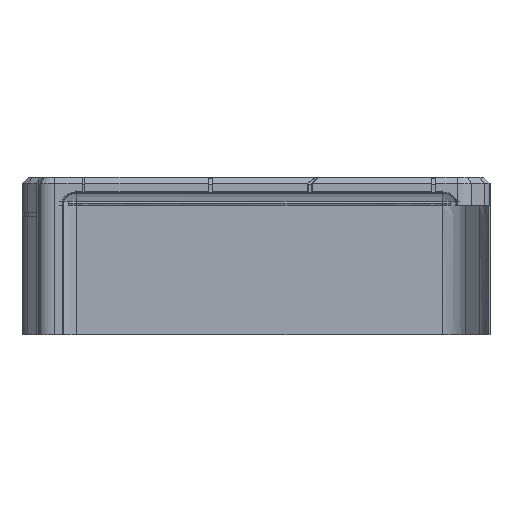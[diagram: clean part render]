
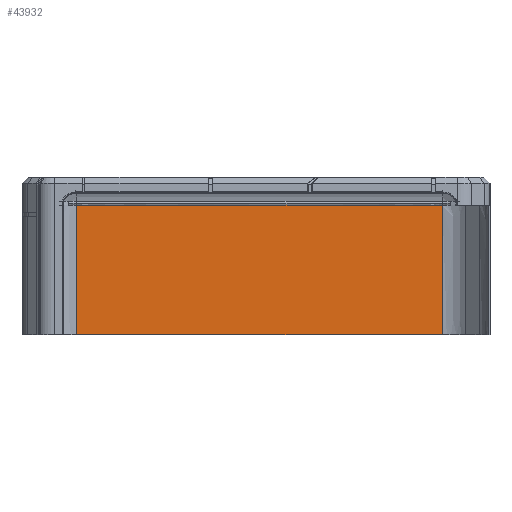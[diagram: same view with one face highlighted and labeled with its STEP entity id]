
A CAD part, front view. The second image highlights one B-rep face of the part: STEP entity #43932.
In plain terms, the highlighted planar face has unit normal (0, -1, 0).
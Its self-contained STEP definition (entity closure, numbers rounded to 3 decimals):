
#29577=DIRECTION('',(-1.,0.,0.));
#29578=VECTOR('',#29577,90.451);
#29579=CARTESIAN_POINT('',(45.225,129.202,
-15.436));
#29580=LINE('',#29579,#29578);
#29590=CARTESIAN_POINT('',(45.225,129.202,
-15.436));
#31624=DIRECTION('',(0.,0.,-1.));
#31625=VECTOR('',#31624,32.);
#31626=CARTESIAN_POINT('',(-45.225,129.202,
16.564));
#31627=LINE('',#31626,#31625);
#31657=CARTESIAN_POINT('',(-45.225,129.202,
16.564));
#32707=CARTESIAN_POINT('',(45.225,129.202,16.564));
#32717=DIRECTION('',(-1.,0.,0.));
#32718=VECTOR('',#32717,90.45);
#32719=CARTESIAN_POINT('',(45.225,129.202,16.564));
#32720=LINE('',#32719,#32718);
#32721=DIRECTION('',(0.,0.,-1.));
#32722=VECTOR('',#32721,32.);
#32723=CARTESIAN_POINT('',(45.225,129.202,16.564));
#32724=LINE('',#32723,#32722);
#33675=VERTEX_POINT('',#31657);
#33676=VERTEX_POINT('',#32707);
#33771=VERTEX_POINT('',#29590);
#33772=CARTESIAN_POINT('',(-45.226,129.202,
-15.436));
#33773=VERTEX_POINT('',#33772);
#43921=CARTESIAN_POINT('',(45.225,129.202,16.564));
#43922=DIRECTION('',(0.,-1.,0.));
#43923=DIRECTION('',(-1.,0.,0.));
#43924=AXIS2_PLACEMENT_3D('',#43921,#43922,#43923);
#43925=PLANE('',#43924);
#43926=ORIENTED_EDGE('',*,*,#43916,.F.);
#43927=ORIENTED_EDGE('',*,*,#42122,.T.);
#43928=ORIENTED_EDGE('',*,*,#39309,.T.);
#43929=ORIENTED_EDGE('',*,*,#42591,.F.);
#43930=EDGE_LOOP('',(#43926,#43927,#43928,#43929));
#43931=FACE_OUTER_BOUND('',#43930,.F.);
#39309=EDGE_CURVE('',#33771,#33773,#29580,.T.);
#42122=EDGE_CURVE('',#33676,#33771,#32724,.T.);
#42591=EDGE_CURVE('',#33675,#33773,#31627,.T.);
#43916=EDGE_CURVE('',#33676,#33675,#32720,.T.);
#43932=ADVANCED_FACE('',(#43931),#43925,.T.);
